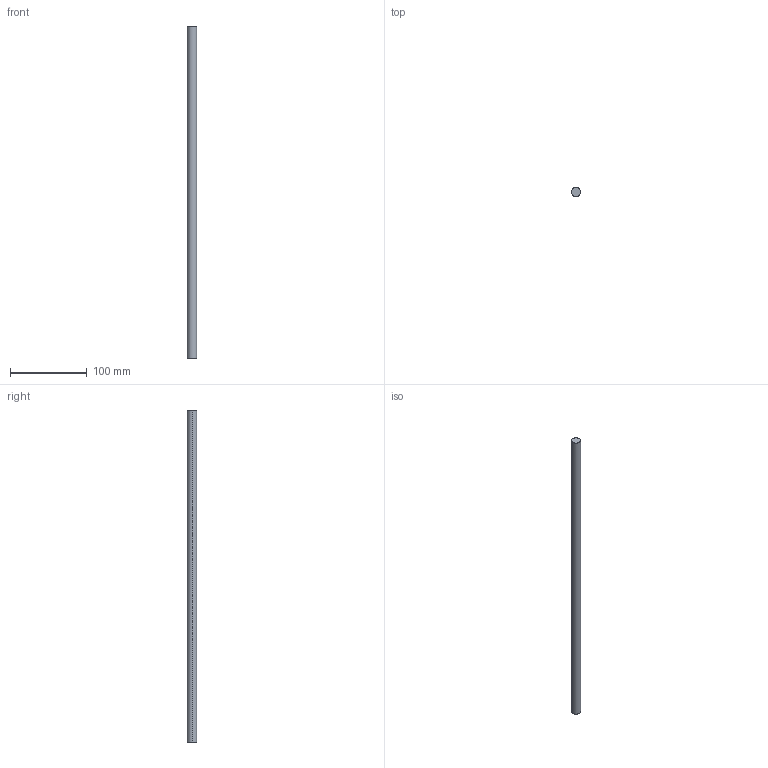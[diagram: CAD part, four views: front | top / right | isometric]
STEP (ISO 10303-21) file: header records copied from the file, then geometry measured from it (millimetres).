
FILE_DESCRIPTION (( 'STEP AP214' ), '1' );
FILE_NAME ('Innenschub H182 - S18_S19 - 550.step', '2010-09-07T14:56:02', ( 'grass' ), ( '' ), 'SwSTEP 2.0', 'SolidWorks 2010', '' );
FILE_SCHEMA (( 'AUTOMOTIVE_DESIGN' ));
Length unit declared in the file: millimetre
Products named in the file (1): Innenschub H182 - S18_S19 - 550
Bounding box: 12 x 12 x 433 mm (x, y, z)
Volume: 48971.1 mm3; surface area: 16549.9 mm2
Topology: 1 solids, 1 shells, 4 faces, 6 edges, 4 vertices
Faces by surface type: cylinder 2, plane 2
Entity records: 128 total; most frequent: DIRECTION 20, CARTESIAN_POINT 15, ORIENTED_EDGE 12, AXIS2_PLACEMENT_3D 9, EDGE_CURVE 6, ADVANCED_FACE 4, VERTEX_POINT 4, FACE_OUTER_BOUND 4
